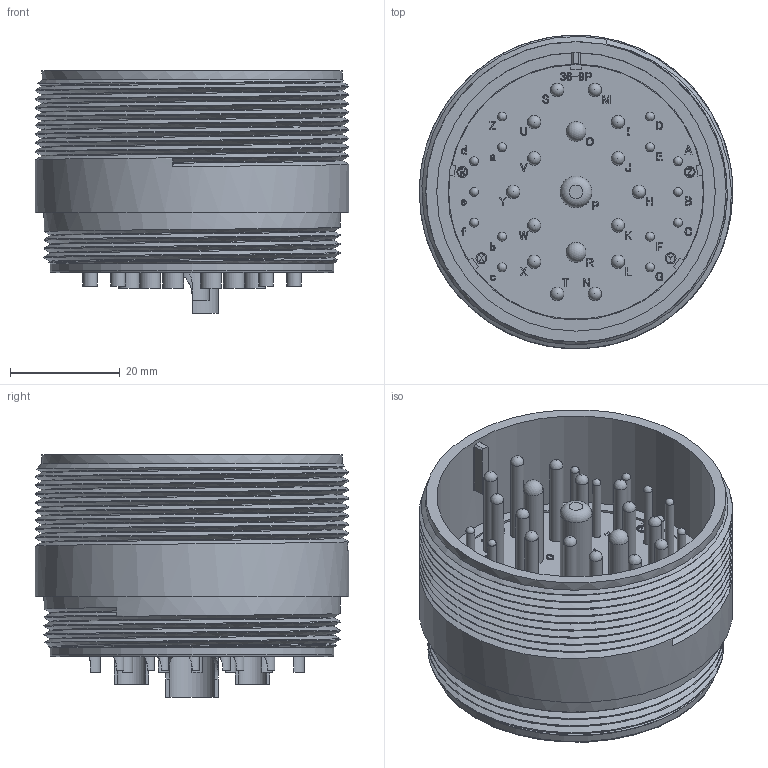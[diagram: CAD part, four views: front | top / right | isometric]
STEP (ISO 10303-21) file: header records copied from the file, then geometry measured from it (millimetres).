
FILE_DESCRIPTION (( 'STEP AP203' ), '1' );
FILE_NAME ('DMS3101A36-9P(D263).STEP', '2022-02-07T05:39:12', ( '' ), ( '' ), 'SwSTEP 2.0', 'SolidWorks 2018', '' );
FILE_SCHEMA (( 'CONFIG_CONTROL_DESIGN' ));
Length unit declared in the file: millimetre
Products named in the file (1): DMS3101A36-9P(D263)
Bounding box: 57.05 x 57.05 x 44.08 mm (x, y, z)
Volume: 47097.7 mm3; surface area: 26807.2 mm2
Topology: 1 solids, 1 shells, 1864 faces, 5056 edges, 3361 vertices
Faces by surface type: plane 970, bspline 615, cylinder 226, sphere 26, torus 24, cone 3
Full cylindrical faces by diameter (mm): 1.59 x14, 1.6 x4, 2 x4, 2.41 x14, 2.85 x14, 3.63 x2, 3.79 x14, 3.94 x14, 5.21 x2, 5.74 x1, 6.25 x2, 8.33 x1, 9.48 x1, 43 x1, 46.56 x1, 47.96 x1, 50.68 x1, 51.64 x1, 53.88 x3, 54.64 x1, 57.05 x9
Entity records: 78322 total; most frequent: CARTESIAN_POINT 37106, ORIENTED_EDGE 9556, DIRECTION 6199, EDGE_CURVE 4778, VERTEX_POINT 3258, VECTOR 2981, LINE 2981, EDGE_LOOP 2180
